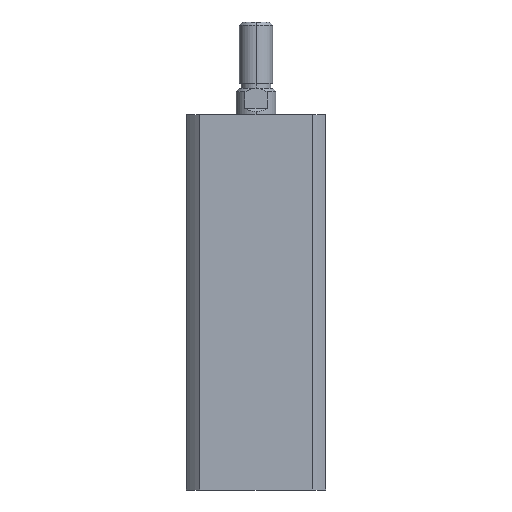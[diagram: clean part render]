
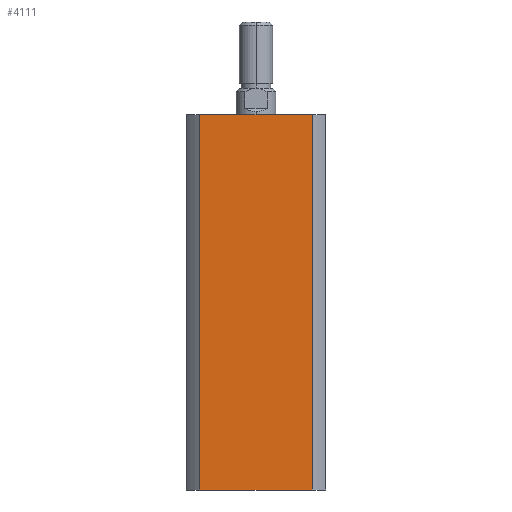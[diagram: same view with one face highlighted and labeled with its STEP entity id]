
A CAD part, left-side view. The second image highlights one B-rep face of the part: STEP entity #4111.
In plain terms, the highlighted planar face has unit normal (-1, 0, 0).
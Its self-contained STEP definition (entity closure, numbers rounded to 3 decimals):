
#224 = EDGE_LOOP ( 'NONE', ( #1186, #1187, #1188, #1189 ) ) ;
#1136 = VERTEX_POINT ( 'NONE', #5106 ) ;
#1137 = VERTEX_POINT ( 'NONE', #5099 ) ;
#1140 = VERTEX_POINT ( 'NONE', #5110 ) ;
#1160 = VERTEX_POINT ( 'NONE', #2774 ) ;
#1186 = ORIENTED_EDGE ( 'NONE', *, *, #4190, .F. ) ;
#1187 = ORIENTED_EDGE ( 'NONE', *, *, #4182, .F. ) ;
#1188 = ORIENTED_EDGE ( 'NONE', *, *, #4191, .F. ) ;
#1189 = ORIENTED_EDGE ( 'NONE', *, *, #4144, .T. ) ;
#1296 = VECTOR ( 'NONE', #2698, 1000. ) ;
#1338 = LINE ( 'NONE', #1605, #1343 ) ;
#1343 = VECTOR ( 'NONE', #1599, 1000. ) ;
#1354 = LINE ( 'NONE', #1624, #1357 ) ;
#1356 = LINE ( 'NONE', #1626, #1359 ) ;
#1357 = VECTOR ( 'NONE', #1625, 1000. ) ;
#1359 = VECTOR ( 'NONE', #1627, 1000. ) ;
#1599 = DIRECTION ( 'NONE',  ( 0., -1., 0. ) ) ;
#1605 = CARTESIAN_POINT ( 'NONE',  ( -21., 21., 113. ) ) ;
#1624 = CARTESIAN_POINT ( 'NONE',  ( -21., -16.971, 113. ) ) ;
#1625 = DIRECTION ( 'NONE',  ( 0., 0., -1. ) ) ;
#1626 = CARTESIAN_POINT ( 'NONE',  ( -21., 16.971, 113. ) ) ;
#1627 = DIRECTION ( 'NONE',  ( 0., 0., 1. ) ) ;
#2670 = CARTESIAN_POINT ( 'NONE',  ( -21., 21., 113. ) ) ;
#2677 = PLANE ( 'NONE',  #3496 ) ;
#2679 = DIRECTION ( 'NONE',  ( 1., 0., 0. ) ) ;
#2680 = DIRECTION ( 'NONE',  ( 0., 1., 0. ) ) ;
#2697 = CARTESIAN_POINT ( 'NONE',  ( -21., 21., 0. ) ) ;
#2698 = DIRECTION ( 'NONE',  ( 0., -1., 0. ) ) ;
#2774 = CARTESIAN_POINT ( 'NONE',  ( -21., -16.971, 113. ) ) ;
#3317 = FACE_OUTER_BOUND ( 'NONE', #224, .T. ) ;
#3324 = LINE ( 'NONE', #2697, #1296 ) ;
#3496 = AXIS2_PLACEMENT_3D ( 'NONE', #2670, #2679, #2680 ) ;
#4111 = ADVANCED_FACE ( 'NONE', ( #3317 ), #2677, .F. ) ;
#4144 = EDGE_CURVE ( 'NONE', #1137, #1140, #3324, .T. ) ;
#4182 = EDGE_CURVE ( 'NONE', #1136, #1160, #1338, .T. ) ;
#4190 = EDGE_CURVE ( 'NONE', #1160, #1140, #1354, .T. ) ;
#4191 = EDGE_CURVE ( 'NONE', #1137, #1136, #1356, .T. ) ;
#5099 = CARTESIAN_POINT ( 'NONE',  ( -21., 16.971, 0. ) ) ;
#5106 = CARTESIAN_POINT ( 'NONE',  ( -21., 16.971, 113. ) ) ;
#5110 = CARTESIAN_POINT ( 'NONE',  ( -21., -16.971, 0. ) ) ;
